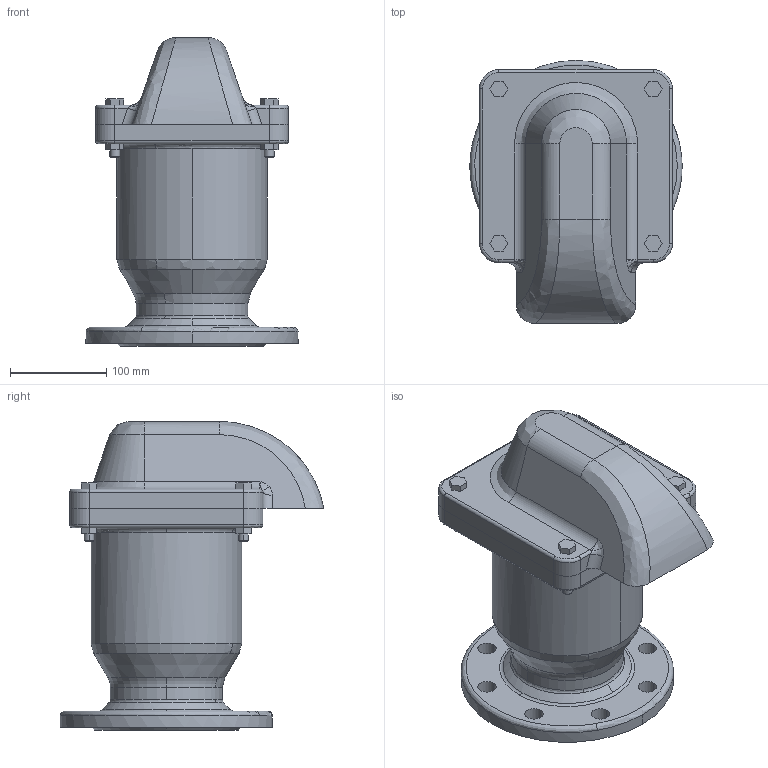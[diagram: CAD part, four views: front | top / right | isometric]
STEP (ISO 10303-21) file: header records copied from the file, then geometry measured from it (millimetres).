
FILE_DESCRIPTION (( 'STEP AP203' ), '1' );
FILE_NAME ('0.STEP', '2017-05-28T02:07:36', ( 'User' ), ( 'shendu' ), 'SwSTEP 2.0', 'SolidWorks 2015', '' );
FILE_SCHEMA (( 'CONFIG_CONTROL_DESIGN' ));
Length unit declared in the file: millimetre
Products named in the file (1): 0
Bounding box: 220 x 273.17 x 320 mm (x, y, z)
Volume: 4987897.6 mm3; surface area: 807159.6 mm2
Topology: 11 solids, 11 shells, 309 faces, 749 edges, 470 vertices
Faces by surface type: plane 115, cylinder 111, bspline 50, cone 18, torus 15
Entity records: 14298 total; most frequent: CARTESIAN_POINT 7142, ORIENTED_EDGE 1474, DIRECTION 1436, EDGE_CURVE 737, AXIS2_PLACEMENT_3D 536, VERTEX_POINT 470, EDGE_LOOP 369, VECTOR 364
